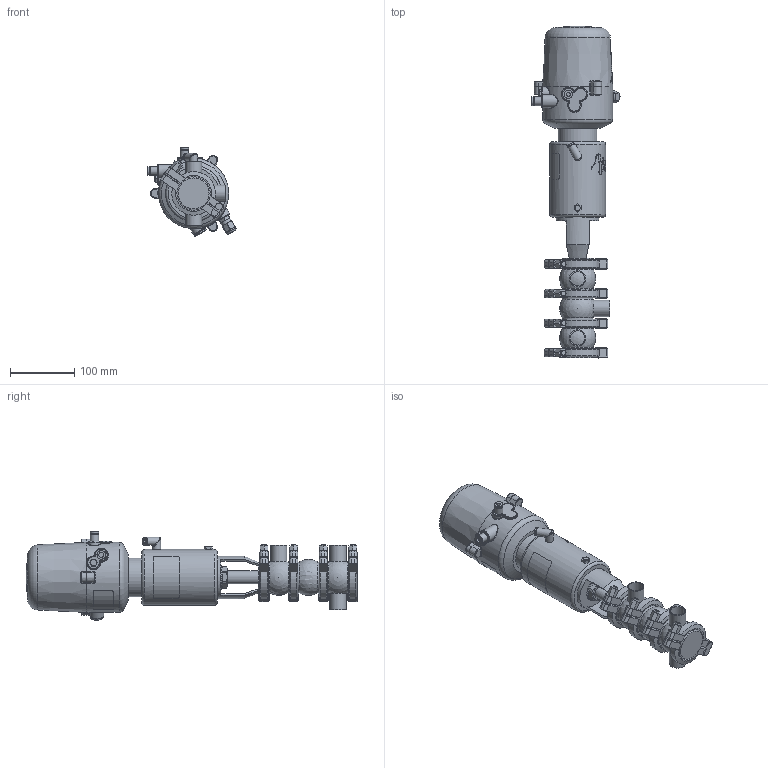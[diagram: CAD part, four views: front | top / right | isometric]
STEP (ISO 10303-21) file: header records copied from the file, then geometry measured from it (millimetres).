
FILE_DESCRIPTION (( 'STEP AP214' ), '1' );
FILE_NAME ('INNOVA L S W OD 1 T1 AS NC & C-TOP S_10.241.16.0058.STEP', '2024-08-06T12:28:07', ( '' ), ( '' ), 'SwSTEP 2.0', 'SolidWorks 2023', '' );
FILE_SCHEMA (( 'AUTOMOTIVE_DESIGN' ));
Length unit declared in the file: millimetre
Products named in the file (9): 10.240.15.0007_OD 1"; 10.240.15.0001_DN 025; 10.240.15.0017_Estàndard; 10.240.15.0010_DN 025; 10.240.15.0014_T1 AS P180; INNOVA L S W OD 1 T1 AS NC & C-TOP S_10.241.16.0058; 10.426.15.0001_C-TOP S - 1 EV; 10.240.15.0006_OD 1"; 10.241.15.0001_DIN 025
Assembly tree (12 placements, depth 2):
  INNOVA L S W OD 1 T1 AS NC & C-TOP S_10.241.16.0058
    10.240.15.0006_OD 1"  x2
    10.240.15.0007_OD 1"
    10.240.15.0010_DN 025
    10.240.15.0014_T1 AS P180
    10.240.15.0017_Estàndard
    10.426.15.0001_C-TOP S - 1 EV
    10.240.15.0001_DN 025  x4
    10.241.15.0001_DIN 025
Bounding box: 136.88 x 516.09 x 137.63 mm (x, y, z)
Volume: 2669629.1 mm3; surface area: 280734.7 mm2
Topology: 13 solids, 13 shells, 1316 faces, 3203 edges, 2123 vertices
Faces by surface type: plane 478, cylinder 406, cone 225, bspline 160, torus 36, sphere 11
Full cylindrical faces by diameter (mm): 0.371 x17, 0.512 x16, 0.658 x16, 0.795 x16, 0.94 x15, 1.098 x15, 1.241 x13, 1.382 x13, 1.523 x11, 1.669 x10, 2.201 x1, 4 x2, 5.5 x2, 6 x2, 6.15 x1, 8 x10, 8.5 x1, 10 x1, 10.5 x1, 11 x2, 12.5 x3, 13 x2, 13.5 x2, 16 x1, 17 x3, 20 x3, 20.5 x1, 22 x2, 22.1 x4, 25.4 x4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
Entity records: 57181 total; most frequent: CARTESIAN_POINT 26704, ORIENTED_EDGE 4544, DIRECTION 3707, EDGE_CURVE 2272, VERTEX_POINT 1617, EDGE_LOOP 1583, AXIS2_PLACEMENT_3D 1521, FACE_OUTER_BOUND 1345
